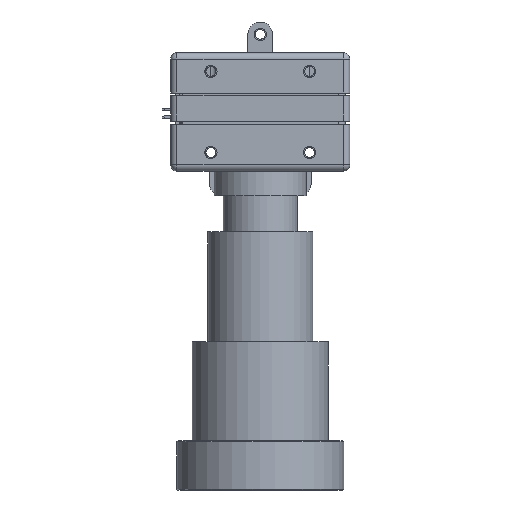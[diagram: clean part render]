
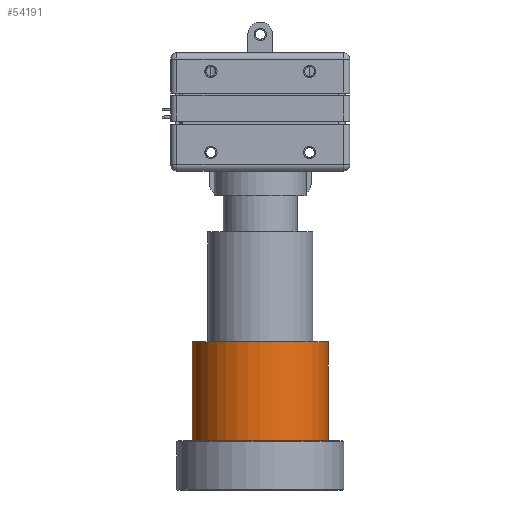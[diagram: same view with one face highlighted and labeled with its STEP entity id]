
A CAD part, front view. The second image highlights one B-rep face of the part: STEP entity #54191.
In plain terms, the highlighted cylindrical face has radius 11 mm (diameter 22 mm), a partial arc.
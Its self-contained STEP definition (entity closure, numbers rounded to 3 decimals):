
#53813=CARTESIAN_POINT('',(0.,28.8,0.));
#53814=DIRECTION('',(0.,1.,0.));
#53815=DIRECTION('',(1.,0.,0.));
#53816=AXIS2_PLACEMENT_3D('',#53813,#53814,#53815);
#53821=DIRECTION('',(0.,1.,0.));
#53822=VECTOR('',#53821,16.);
#53823=CARTESIAN_POINT('',(11.,28.8,0.));
#53824=LINE('',#53823,#53822);
#53836=DIRECTION('',(0.,1.,0.));
#53837=VECTOR('',#53836,16.);
#53838=CARTESIAN_POINT('',(-11.,28.8,0.));
#53839=LINE('',#53838,#53837);
#53851=CARTESIAN_POINT('',(0.,44.8,0.));
#53852=DIRECTION('',(0.,1.,0.));
#53853=DIRECTION('',(1.,0.,0.));
#53854=AXIS2_PLACEMENT_3D('',#53851,#53852,#53853);
#54035=CARTESIAN_POINT('',(11.,28.8,0.));
#54036=CARTESIAN_POINT('',(11.,44.8,0.));
#54037=VERTEX_POINT('',#54035);
#54038=VERTEX_POINT('',#54036);
#54053=CARTESIAN_POINT('',(-11.,28.8,0.));
#54054=CARTESIAN_POINT('',(-11.,44.8,0.));
#54055=VERTEX_POINT('',#54053);
#54056=VERTEX_POINT('',#54054);
#54177=CARTESIAN_POINT('',(0.,0.,0.));
#54178=DIRECTION('',(0.,1.,0.));
#54179=DIRECTION('',(1.,0.,0.));
#54180=AXIS2_PLACEMENT_3D('',#54177,#54178,#54179);
#54181=CYLINDRICAL_SURFACE('',#54180,11.);
#54183=ORIENTED_EDGE('',*,*,#54182,.T.);
#54185=ORIENTED_EDGE('',*,*,#54184,.T.);
#54187=ORIENTED_EDGE('',*,*,#54186,.F.);
#54188=ORIENTED_EDGE('',*,*,#54166,.F.);
#54189=EDGE_LOOP('',(#54183,#54185,#54187,#54188));
#54190=FACE_OUTER_BOUND('',#54189,.F.);
#53817=CIRCLE('',#53816,11.);
#53855=CIRCLE('',#53854,11.);
#54166=EDGE_CURVE('',#54037,#54055,#53817,.T.);
#54182=EDGE_CURVE('',#54037,#54038,#53824,.T.);
#54184=EDGE_CURVE('',#54038,#54056,#53855,.T.);
#54186=EDGE_CURVE('',#54055,#54056,#53839,.T.);
#54191=ADVANCED_FACE('',(#54190),#54181,.T.);
